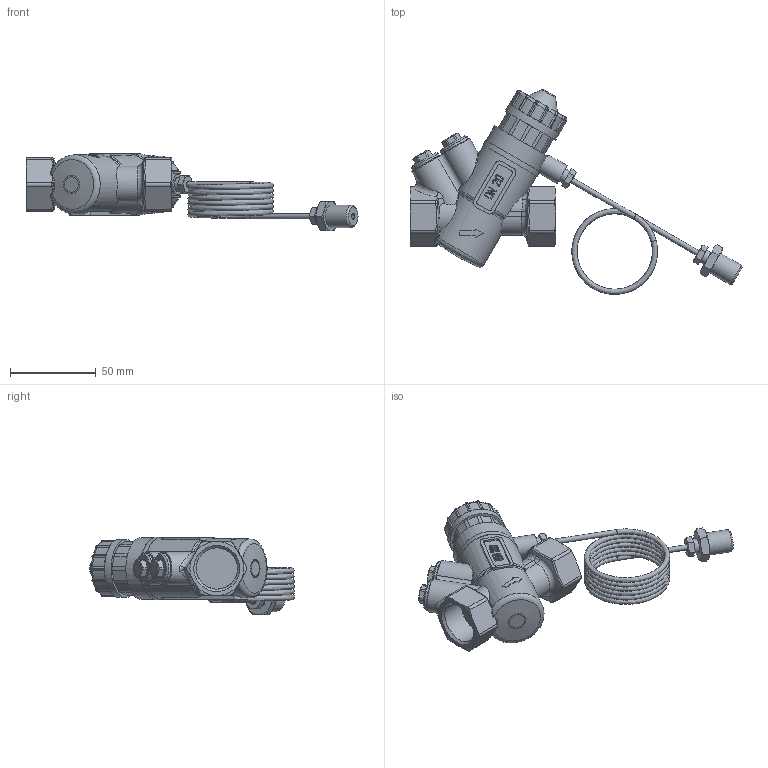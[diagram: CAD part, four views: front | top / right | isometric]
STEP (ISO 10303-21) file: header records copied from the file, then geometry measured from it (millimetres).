
FILE_DESCRIPTION(('STEP AP203'), '1');
FILE_NAME('VT.043.GA.0511', '', ('UNSPECIFIED'), ('UNSPECIFIED'), 'C3D Converter', 'C3D Toolkit', '');
FILE_SCHEMA(('CONFIG_CONTROL_DESIGN'));
Length unit declared in the file: millimetre
Products named in the file (1): ВР.493612.016.000 СБ
Bounding box: 193.89 x 119.51 x 45.4 mm (x, y, z)
Volume: 140590.9 mm3; surface area: 39865 mm2
Topology: 1 solids, 5 shells, 643 faces, 1578 edges, 977 vertices
Faces by surface type: plane 206, cylinder 183, bspline 101, extrusion 63, cone 62, torus 28
Full cylindrical faces by diameter (mm): 1.2 x2, 3 x3, 3.1 x1, 3.5 x1, 4.4 x1, 6.647 x1, 8 x2, 12 x1, 13.157 x1, 16.2 x2, 18 x2, 24.118 x2, 28.376 x1, 33.9 x1, 36 x1, 36.6 x1
Entity records: 37880 total; most frequent: CARTESIAN_POINT 24371, ORIENTED_EDGE 3058, DIRECTION 2261, EDGE_CURVE 1529, VERTEX_POINT 977, AXIS2_PLACEMENT_3D 823, EDGE_LOOP 726, B_SPLINE_CURVE_WITH_KNOTS 662
